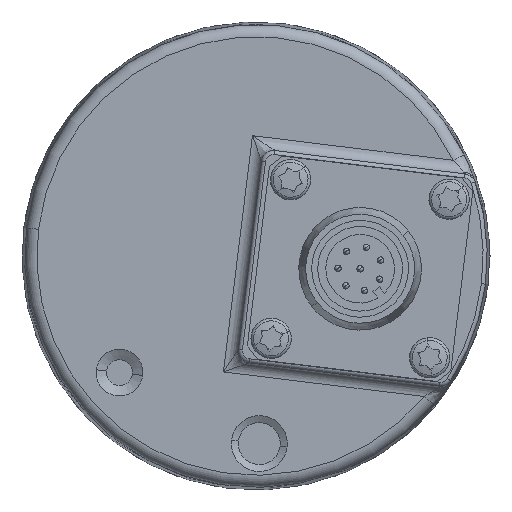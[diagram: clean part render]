
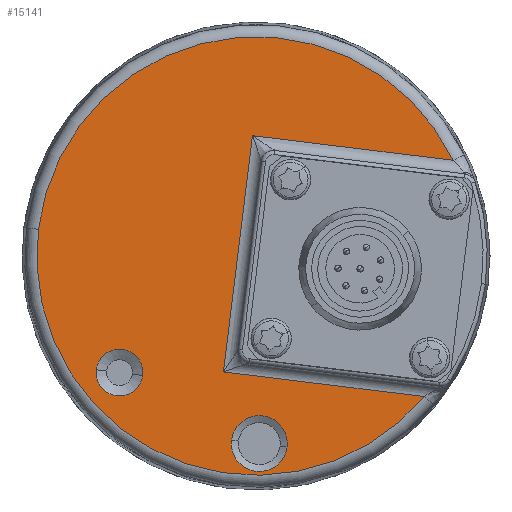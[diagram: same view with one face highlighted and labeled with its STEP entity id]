
A CAD part, left-side view. The second image highlights one B-rep face of the part: STEP entity #15141.
In plain terms, the highlighted planar face has unit normal (-1, 0, 0).
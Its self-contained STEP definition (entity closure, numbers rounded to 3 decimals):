
#46 = LINE ( 'NONE', #12531, #613 ) ;
#613 = VECTOR ( 'NONE', #8355, 1000. ) ;
#726 = CIRCLE ( 'NONE', #4509, 27.173 ) ;
#1177 = ORIENTED_EDGE ( 'NONE', *, *, #4477, .T. ) ;
#1302 = DIRECTION ( 'NONE',  ( -1., 0., 0. ) ) ;
#1336 = DIRECTION ( 'NONE',  ( -1., 0., 0. ) ) ;
#1413 = FACE_BOUND ( 'NONE', #9083, .T. ) ;
#1473 = CARTESIAN_POINT ( 'NONE',  ( -19., 0., 0. ) ) ;
#1643 = DIRECTION ( 'NONE',  ( 1., 0., 0. ) ) ;
#1655 = AXIS2_PLACEMENT_3D ( 'NONE', #1473, #1302, #22892 ) ;
#1703 = VERTEX_POINT ( 'NONE', #15054 ) ;
#1950 = AXIS2_PLACEMENT_3D ( 'NONE', #5744, #18560, #7602 ) ;
#2366 = CIRCLE ( 'NONE', #1655, 27.173 ) ;
#2480 = VERTEX_POINT ( 'NONE', #9942 ) ;
#2523 = VERTEX_POINT ( 'NONE', #10021 ) ;
#2830 = EDGE_CURVE ( 'NONE', #5653, #8952, #2366, .T. ) ;
#3487 = EDGE_CURVE ( 'NONE', #8952, #8145, #46, .T. ) ;
#4177 = DIRECTION ( 'NONE',  ( 0., -0.122, 0.993 ) ) ;
#4438 = ORIENTED_EDGE ( 'NONE', *, *, #20783, .T. ) ;
#4477 = EDGE_CURVE ( 'NONE', #1703, #2523, #14598, .T. ) ;
#4509 = AXIS2_PLACEMENT_3D ( 'NONE', #12308, #1336, #14146 ) ;
#4915 = DIRECTION ( 'NONE',  ( 1., 0., 0. ) ) ;
#5352 = PLANE ( 'NONE',  #9007 ) ;
#5565 = VECTOR ( 'NONE', #16721, 1000. ) ;
#5653 = VERTEX_POINT ( 'NONE', #9598 ) ;
#5744 = CARTESIAN_POINT ( 'NONE',  ( -19., 16.919, -14.45 ) ) ;
#7602 = DIRECTION ( 'NONE',  ( 0., 0.993, 0.122 ) ) ;
#7681 = DIRECTION ( 'NONE',  ( 0., 0.993, 0.122 ) ) ;
#8145 = VERTEX_POINT ( 'NONE', #13937 ) ;
#8355 = DIRECTION ( 'NONE',  ( 0., 0.993, 0.122 ) ) ;
#8701 = CIRCLE ( 'NONE', #1950, 2.899 ) ;
#8952 = VERTEX_POINT ( 'NONE', #16257 ) ;
#9007 = AXIS2_PLACEMENT_3D ( 'NONE', #18160, #19963, #9041 ) ;
#9041 = DIRECTION ( 'NONE',  ( 0., 0.993, 0.122 ) ) ;
#9083 = EDGE_LOOP ( 'NONE', ( #16894, #22004 ) ) ;
#9120 = AXIS2_PLACEMENT_3D ( 'NONE', #9933, #22677, #11788 ) ;
#9363 = CARTESIAN_POINT ( 'NONE',  ( -19., -27.014, 11.544 ) ) ;
#9435 = ORIENTED_EDGE ( 'NONE', *, *, #21280, .T. ) ;
#9598 = CARTESIAN_POINT ( 'NONE',  ( -19., 26.97, 3.312 ) ) ;
#9755 = VERTEX_POINT ( 'NONE', #12139 ) ;
#9933 = CARTESIAN_POINT ( 'NONE',  ( -19., -0.406, -23.246 ) ) ;
#9942 = CARTESIAN_POINT ( 'NONE',  ( -19., 0.436, 14.914 ) ) ;
#10021 = CARTESIAN_POINT ( 'NONE',  ( -19., 14.042, -14.804 ) ) ;
#10136 = LINE ( 'NONE', #22384, #19279 ) ;
#10702 = ORIENTED_EDGE ( 'NONE', *, *, #20557, .T. ) ;
#10703 = EDGE_CURVE ( 'NONE', #2480, #17128, #11053, .T. ) ;
#10897 = CIRCLE ( 'NONE', #11615, 3.466 ) ;
#11053 = LINE ( 'NONE', #9363, #5565 ) ;
#11144 = FACE_OUTER_BOUND ( 'NONE', #18824, .T. ) ;
#11615 = AXIS2_PLACEMENT_3D ( 'NONE', #15876, #4915, #17741 ) ;
#11788 = DIRECTION ( 'NONE',  ( 0., 0.993, 0.122 ) ) ;
#11846 = CARTESIAN_POINT ( 'NONE',  ( -19., 3.034, -22.824 ) ) ;
#12139 = CARTESIAN_POINT ( 'NONE',  ( -19., -3.846, -23.669 ) ) ;
#12308 = CARTESIAN_POINT ( 'NONE',  ( -19., 0., 0. ) ) ;
#12434 = EDGE_CURVE ( 'NONE', #9755, #21515, #18382, .T. ) ;
#12531 = CARTESIAN_POINT ( 'NONE',  ( -19., 2.542, -14.549 ) ) ;
#13937 = CARTESIAN_POINT ( 'NONE',  ( -19., 4.031, -14.366 ) ) ;
#14146 = DIRECTION ( 'NONE',  ( 0., 0.993, 0.122 ) ) ;
#14471 = EDGE_CURVE ( 'NONE', #21515, #9755, #10897, .T. ) ;
#14598 = CIRCLE ( 'NONE', #16845, 2.899 ) ;
#14752 = ORIENTED_EDGE ( 'NONE', *, *, #2830, .T. ) ;
#15054 = CARTESIAN_POINT ( 'NONE',  ( -19., 19.796, -14.097 ) ) ;
#15141 = ADVANCED_FACE ( 'NONE', ( #1413, #20809, #11144 ), #5352, .F. ) ;
#15876 = CARTESIAN_POINT ( 'NONE',  ( -19., -0.406, -23.246 ) ) ;
#16206 = ORIENTED_EDGE ( 'NONE', *, *, #3487, .T. ) ;
#16241 = CARTESIAN_POINT ( 'NONE',  ( -19., 16.919, -14.45 ) ) ;
#16257 = CARTESIAN_POINT ( 'NONE',  ( -19., -20.853, -17.421 ) ) ;
#16717 = CARTESIAN_POINT ( 'NONE',  ( -19., -24.448, 11.859 ) ) ;
#16721 = DIRECTION ( 'NONE',  ( 0., -0.993, -0.122 ) ) ;
#16845 = AXIS2_PLACEMENT_3D ( 'NONE', #16241, #1643, #7681 ) ;
#16894 = ORIENTED_EDGE ( 'NONE', *, *, #12434, .T. ) ;
#17128 = VERTEX_POINT ( 'NONE', #16717 ) ;
#17420 = EDGE_LOOP ( 'NONE', ( #9435, #1177 ) ) ;
#17741 = DIRECTION ( 'NONE',  ( 0., 0.993, 0.122 ) ) ;
#18160 = CARTESIAN_POINT ( 'NONE',  ( -19., 0., 0. ) ) ;
#18382 = CIRCLE ( 'NONE', #9120, 3.466 ) ;
#18436 = ORIENTED_EDGE ( 'NONE', *, *, #10703, .T. ) ;
#18560 = DIRECTION ( 'NONE',  ( 1., 0., 0. ) ) ;
#18824 = EDGE_LOOP ( 'NONE', ( #18436, #10702, #14752, #16206, #4438 ) ) ;
#19279 = VECTOR ( 'NONE', #4177, 1000. ) ;
#19963 = DIRECTION ( 'NONE',  ( 1., 0., 0. ) ) ;
#20557 = EDGE_CURVE ( 'NONE', #17128, #5653, #726, .T. ) ;
#20783 = EDGE_CURVE ( 'NONE', #8145, #2480, #10136, .T. ) ;
#20809 = FACE_BOUND ( 'NONE', #17420, .T. ) ;
#21280 = EDGE_CURVE ( 'NONE', #2523, #1703, #8701, .T. ) ;
#21515 = VERTEX_POINT ( 'NONE', #11846 ) ;
#22004 = ORIENTED_EDGE ( 'NONE', *, *, #14471, .T. ) ;
#22384 = CARTESIAN_POINT ( 'NONE',  ( -19., 0.618, 13.425 ) ) ;
#22677 = DIRECTION ( 'NONE',  ( 1., 0., 0. ) ) ;
#22892 = DIRECTION ( 'NONE',  ( 0., 0.993, 0.122 ) ) ;
